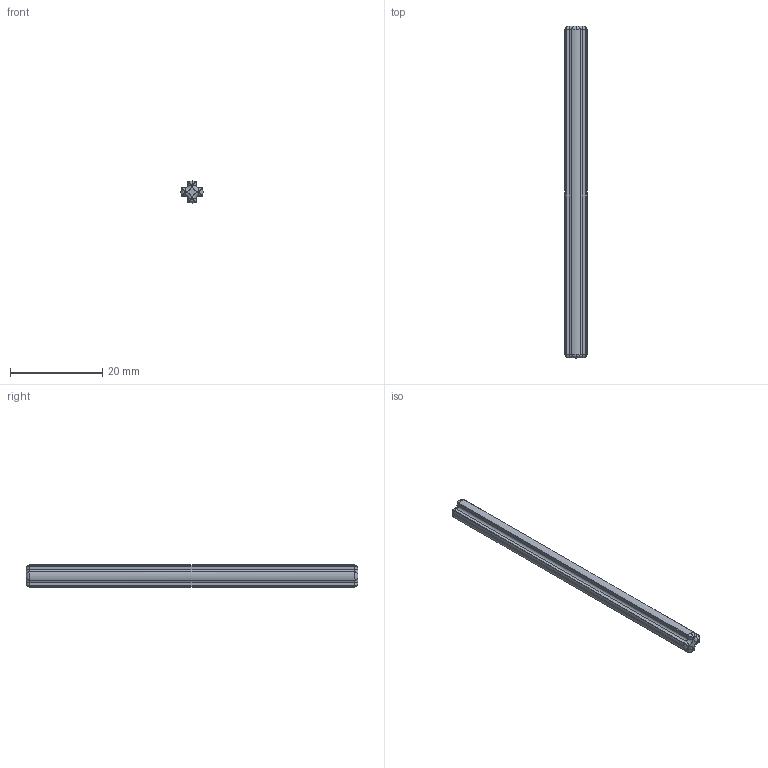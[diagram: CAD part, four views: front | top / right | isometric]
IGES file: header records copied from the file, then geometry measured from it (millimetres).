
Start section: C
Global section: file name: ClGray_4535768_JCA.iges; native system: By Siemens PLM Incorporated; preprocessor: XPlus GENERIC/IGES 26.1.183; author: Author; organization: Title; date: 20250721.235604; units: millimetre
Bounding box: 4.8 x 72 x 4.8 mm (x, y, z)
Surface area: 1238.3 mm2 (no closed solid volume)
Topology: 0 solids, 0 shells, 77 faces, 338 edges, 322 vertices
Faces by surface type: bspline 77
